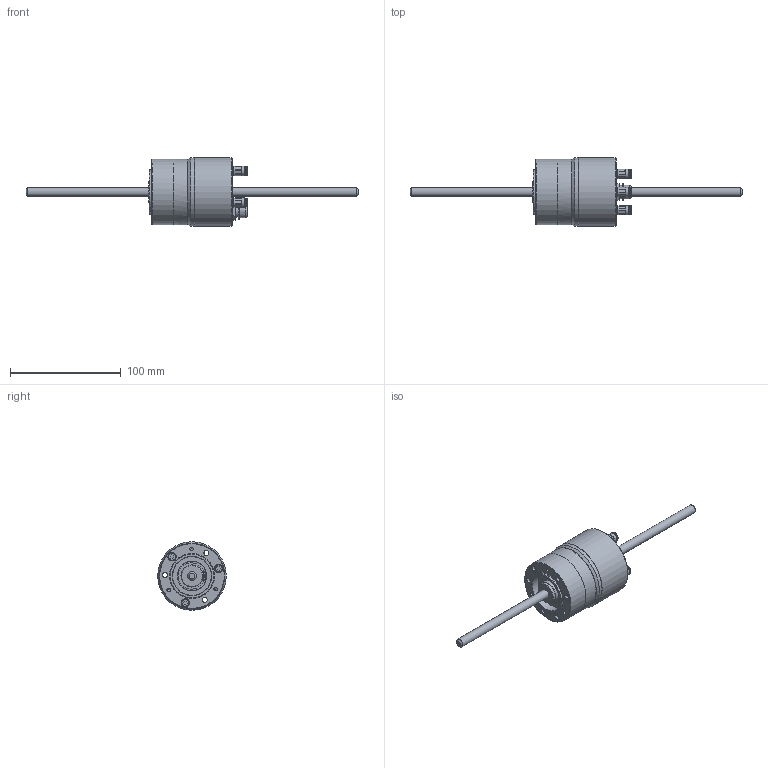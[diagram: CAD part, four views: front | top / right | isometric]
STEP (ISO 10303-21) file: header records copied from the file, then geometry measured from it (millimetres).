
FILE_DESCRIPTION(/* description */ (''),/* implementation_level */ '2;1');
FILE_NAME(/* name */ 'G:\02 CAD Dateien\02 - CAD Schrittmotoren BPS\01 - Standart Produkte\BPS 1620-23\Verkaufsunterlagen\STEP ab JULI 2017\500-16-311e Schrittmotor BPS-1620-S5-SR2.stp',/* time_stamp */ '2017-12-20T09:19:43+01:00',/* author */ ('RSc'),/* organization */ (''),/* preprocessor_version */ 'ST-DEVELOPER v16.1',/* originating_system */ 'Autodesk Inventor 2016',/* authorisation */ '');
FILE_SCHEMA (('AUTOMOTIVE_DESIGN { 1 0 10303 214 3 1 1 }'));
Length unit declared in the file: millimetre
Products named in the file (3): Bauteil2; 500-16-295 Spindel 8x2; 500-16-311e Schrittmotor BPS-1620-S5-SR2
Assembly tree (2 placements, depth 2):
  500-16-311e Schrittmotor BPS-1620-S5-SR2
    Bauteil2
    500-16-295 Spindel 8x2
Bounding box: 300 x 62 x 62 mm (x, y, z)
Volume: 214187 mm3; surface area: 43480.1 mm2
Topology: 13 solids, 22 shells, 381 faces, 903 edges, 586 vertices
Faces by surface type: plane 184, cylinder 81, cone 40, torus 34, bspline 31, sphere 11
Full cylindrical faces by diameter (mm): 1 x10, 2 x2, 3 x1, 3.242 x3, 4 x6, 4.5 x6, 5.2 x3, 6.65 x1, 7 x3, 7.5 x3, 7.8 x3, 8 x1, 8.1 x3, 8.4 x1, 8.5 x3, 9 x1, 9.4 x1, 12 x1, 12.5 x1, 16 x1, 19 x1, 19.5 x1, 20 x2, 25.325 x1, 26.657 x1, 26.857 x1, 35 x1, 35.343 x1, 36.675 x1, 38.675 x1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
Entity records: 10600 total; most frequent: CARTESIAN_POINT 2144, DIRECTION 1647, ORIENTED_EDGE 1504, EDGE_CURVE 730, AXIS2_PLACEMENT_3D 672, EDGE_LOOP 573, VERTEX_POINT 529, ADVANCED_FACE 381
